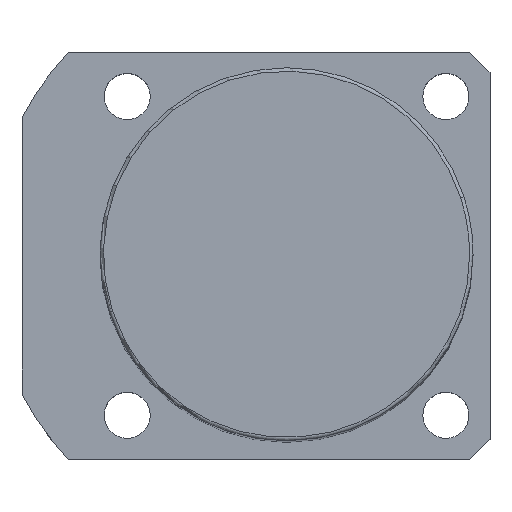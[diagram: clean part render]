
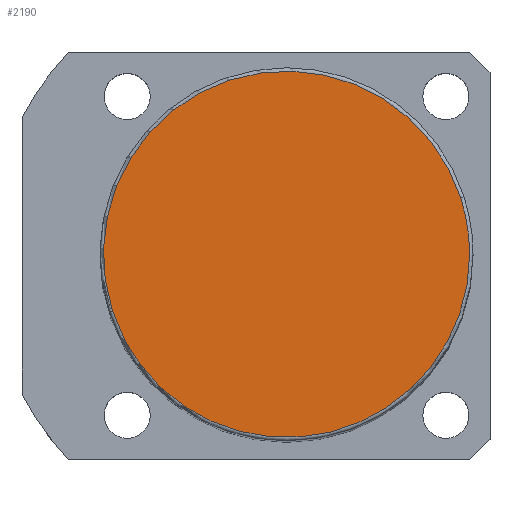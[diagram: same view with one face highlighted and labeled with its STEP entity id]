
A CAD part, top view. The second image highlights one B-rep face of the part: STEP entity #2190.
In plain terms, the highlighted planar face has unit normal (0, 0, 1).
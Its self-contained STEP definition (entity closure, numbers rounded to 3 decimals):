
#2156=CARTESIAN_POINT('',(27.0,0.0,146.0));
#2157=VERTEX_POINT('',#2156);
#2158=CARTESIAN_POINT('',(25.679,8.343,146.0));
#2159=VERTEX_POINT('',#2158);
#2160=CARTESIAN_POINT('',(0.0,0.0,146.0));
#2161=DIRECTION('',(0.0,0.0,1.0));
#2162=DIRECTION('',(1.0,0.0,0.0));
#2163=AXIS2_PLACEMENT_3D('',#2160,#2161,#2162);
#2164=CIRCLE('',#2163,27.0);
#2165=EDGE_CURVE('no 2167',#2157,#2159,#2164,.T.);
#2166=ORIENTED_EDGE('',*,*,#2165,.T.);
#2167=CARTESIAN_POINT('',(-25.679,-8.343,146.0));
#2168=VERTEX_POINT('',#2167);
#2169=CARTESIAN_POINT('',(0.0,0.0,146.0));
#2170=DIRECTION('',(0.0,0.0,1.0));
#2171=DIRECTION('',(1.0,0.0,0.0));
#2172=AXIS2_PLACEMENT_3D('',#2169,#2170,#2171);
#2173=CIRCLE('',#2172,27.0);
#2174=EDGE_CURVE('no 2173',#2159,#2168,#2173,.T.);
#2175=ORIENTED_EDGE('',*,*,#2174,.T.);
#2176=CARTESIAN_POINT('',(0.0,0.0,146.0));
#2177=DIRECTION('',(0.0,0.0,1.0));
#2178=DIRECTION('',(1.0,0.0,0.0));
#2179=AXIS2_PLACEMENT_3D('',#2176,#2177,#2178);
#2180=CIRCLE('',#2179,27.0);
#2181=EDGE_CURVE('no 2177',#2168,#2157,#2180,.T.);
#2182=ORIENTED_EDGE('',*,*,#2181,.T.);
#2183=EDGE_LOOP('',(#2166,#2175,#2182));
#2184=FACE_OUTER_BOUND('',#2183,.T.);
#2185=CARTESIAN_POINT('',(0.0,0.0,146.0));
#2186=DIRECTION('',(0.0,0.0,1.0));
#2187=DIRECTION('',(1.0,0.0,0.0));
#2188=AXIS2_PLACEMENT_3D('',#2185,#2186,#2187);
#2189=PLANE('',#2188);
#2190=ADVANCED_FACE('no 2158',(#2184),#2189,.T.);
